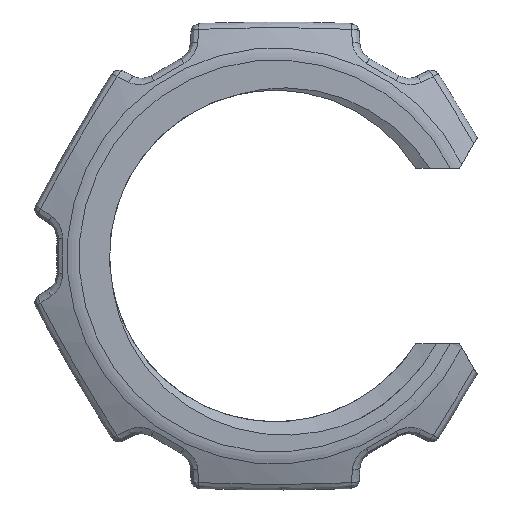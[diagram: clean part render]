
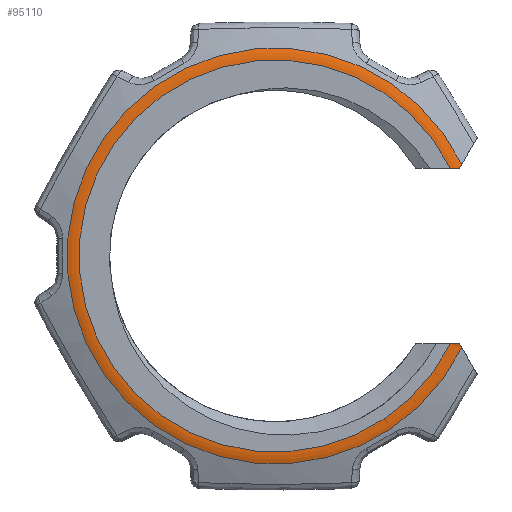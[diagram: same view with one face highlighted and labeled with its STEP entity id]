
A CAD part, left-side view. The second image highlights one B-rep face of the part: STEP entity #95110.
In plain terms, the highlighted toroidal (fillet/blend) face has major radius 11.19 mm and minor radius 2 mm.
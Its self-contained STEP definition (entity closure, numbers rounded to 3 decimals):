
#22020=CARTESIAN_POINT('',(17.912,-125.377,
-63.189));
#22030=DIRECTION('',(-0.864,0.,
-0.504));
#22040=DIRECTION('',(-0.504,0.,
0.864));
#22050=AXIS2_PLACEMENT_3D('',#22020,#22030,#22040);
#22060=PLANE('',#22050);
#22260=CARTESIAN_POINT('',(21.66,-125.377,-59.));
#22270=DIRECTION('',(0.,0.,-1.));
#22280=DIRECTION('',(-1.,0.,0.));
#22290=AXIS2_PLACEMENT_3D('',#22260,#22270,#22280);
#22300=PLANE('',#22290);
#22580=CARTESIAN_POINT('',(5.66,-125.377,-49.));
#22590=DIRECTION('',(0.,0.,1.));
#22600=DIRECTION('',(1.,0.,0.));
#22610=AXIS2_PLACEMENT_3D('',#22580,#22590,#22600);
#22620=PLANE('',#22610);
#22820=CARTESIAN_POINT('',(14.034,-125.377,
-51.463));
#22830=DIRECTION('',(-0.864,0.,
0.504));
#22840=DIRECTION('',(0.504,0.,
0.864));
#22850=AXIS2_PLACEMENT_3D('',#22820,#22830,#22840);
#22860=PLANE('',#22850);
#24000=CARTESIAN_POINT('',(14.961,-130.39,-49.));
#24010=VERTEX_POINT('',#24000);
#24040=CARTESIAN_POINT('',(4.95,-128.39,-54.));
#24050=DIRECTION('',(0.,1.,0.));
#24060=DIRECTION('',(-1.,0.,0.));
#24070=AXIS2_PLACEMENT_3D('',#24040,#24050,#24060);
#24080=TOROIDAL_SURFACE('',#24070,11.19,2.);
#24090=CARTESIAN_POINT('',(15.47,-130.337,-49.));
#24100=CARTESIAN_POINT('',(15.428,-130.346,-49.));
#24110=CARTESIAN_POINT('',(15.386,-130.354,
-49.));
#24120=CARTESIAN_POINT('',(15.344,-130.36,
-49.));
#24130=CARTESIAN_POINT('',(15.302,-130.367,
-49.));
#24140=CARTESIAN_POINT('',(15.259,-130.372,-49.));
#24150=CARTESIAN_POINT('',(15.217,-130.377,-49.));
#24160=CARTESIAN_POINT('',(15.174,-130.381,-49.));
#24170=CARTESIAN_POINT('',(15.132,-130.385,-49.));
#24180=CARTESIAN_POINT('',(15.089,-130.387,-49.));
#24190=CARTESIAN_POINT('',(15.046,-130.389,-49.));
#24200=CARTESIAN_POINT('',(15.004,-130.39,-49.));
#24210=CARTESIAN_POINT('',(14.961,-130.39,-49.));
#24220=B_SPLINE_CURVE_WITH_KNOTS('',3,(#24090,#24100,#24110,#24120,
#24130,#24140,#24150,#24160,#24170,#24180,#24190,#24200,#24210),
.UNSPECIFIED.,.F.,.F.,(4,3,3,3,4),(0.,0.128,
0.256,0.384,0.512),.UNSPECIFIED.);
#24230=SURFACE_CURVE('',#24220,(#24080,#22620),.CURVE_3D.);
#24240=CARTESIAN_POINT('',(15.47,-130.337,
-49.));
#24250=VERTEX_POINT('',#24240);
#24260=EDGE_CURVE('',#24250,#24010,#24230,.T.);
#25860=CARTESIAN_POINT('',(15.607,-130.269,
-48.764));
#25870=CARTESIAN_POINT('',(15.596,-130.276,
-48.783));
#25880=CARTESIAN_POINT('',(15.585,-130.283,
-48.803));
#25890=CARTESIAN_POINT('',(15.573,-130.289,
-48.822));
#25900=CARTESIAN_POINT('',(15.562,-130.295,
-48.842));
#25910=CARTESIAN_POINT('',(15.55,-130.301,
-48.861));
#25920=CARTESIAN_POINT('',(15.539,-130.307,
-48.881));
#25930=CARTESIAN_POINT('',(15.527,-130.312,
-48.901));
#25940=CARTESIAN_POINT('',(15.516,-130.318,
-48.921));
#25950=CARTESIAN_POINT('',(15.504,-130.323,
-48.94));
#25960=CARTESIAN_POINT('',(15.493,-130.328,
-48.96));
#25970=CARTESIAN_POINT('',(15.481,-130.333,
-48.98));
#25980=CARTESIAN_POINT('',(15.47,-130.337,
-49.));
#25990=B_SPLINE_CURVE_WITH_KNOTS('',3,(#25860,#25870,#25880,#25890,
#25900,#25910,#25920,#25930,#25940,#25950,#25960,#25970,#25980),
.UNSPECIFIED.,.F.,.F.,(4,3,3,3,4),(0.,0.07,
0.141,0.211,0.282),.UNSPECIFIED.);
#26000=SURFACE_CURVE('',#25990,(#24080,#22860),.CURVE_3D.);
#26010=CARTESIAN_POINT('',(15.607,-130.269,
-48.764));
#26020=VERTEX_POINT('',#26010);
#26030=EDGE_CURVE('',#26020,#24250,#26000,.T.);
#26340=CARTESIAN_POINT('',(15.47,-130.337,
-59.));
#26350=VERTEX_POINT('',#26340);
#27410=CARTESIAN_POINT('',(15.607,-130.269,
-59.236));
#27420=VERTEX_POINT('',#27410);
#27450=CARTESIAN_POINT('',(15.47,-130.337,
-59.));
#27460=CARTESIAN_POINT('',(15.481,-130.333,
-59.02));
#27470=CARTESIAN_POINT('',(15.493,-130.328,
-59.04));
#27480=CARTESIAN_POINT('',(15.504,-130.323,
-59.06));
#27490=CARTESIAN_POINT('',(15.516,-130.318,
-59.079));
#27500=CARTESIAN_POINT('',(15.527,-130.312,
-59.099));
#27510=CARTESIAN_POINT('',(15.539,-130.307,
-59.119));
#27520=CARTESIAN_POINT('',(15.55,-130.301,
-59.139));
#27530=CARTESIAN_POINT('',(15.562,-130.295,
-59.158));
#27540=CARTESIAN_POINT('',(15.573,-130.289,
-59.178));
#27550=CARTESIAN_POINT('',(15.585,-130.283,
-59.197));
#27560=CARTESIAN_POINT('',(15.596,-130.276,
-59.217));
#27570=CARTESIAN_POINT('',(15.607,-130.269,
-59.236));
#27580=B_SPLINE_CURVE_WITH_KNOTS('',3,(#27450,#27460,#27470,#27480,
#27490,#27500,#27510,#27520,#27530,#27540,#27550,#27560,#27570),
.UNSPECIFIED.,.F.,.F.,(4,3,3,3,4),(0.,0.07,
0.141,0.211,0.282),.UNSPECIFIED.);
#27590=SURFACE_CURVE('',#27580,(#24080,#22060),.CURVE_3D.);
#27600=EDGE_CURVE('',#26350,#27420,#27590,.T.);
#28710=CARTESIAN_POINT('',(14.961,-130.39,-59.));
#28720=VERTEX_POINT('',#28710);
#28750=CARTESIAN_POINT('',(4.95,-130.39,-54.));
#28760=DIRECTION('',(0.,1.,0.));
#28770=DIRECTION('',(-1.,0.,0.));
#28780=AXIS2_PLACEMENT_3D('',#28750,#28760,#28770);
#28790=CIRCLE('',#28780,11.19);
#28800=EDGE_CURVE('',#28720,#24010,#28790,.T.);
#40390=CARTESIAN_POINT('',(4.95,-130.269,-54.));
#40400=DIRECTION('',(0.,1.,0.));
#40410=DIRECTION('',(-1.,0.,0.));
#40420=AXIS2_PLACEMENT_3D('',#40390,#40400,#40410);
#40430=CIRCLE('',#40420,11.874);
#40440=EDGE_CURVE('',#27420,#26020,#40430,.T.);
#94870=ORIENTED_EDGE('',*,*,#24260,.F.);
#94880=ORIENTED_EDGE('',*,*,#28800,.T.);
#94890=CARTESIAN_POINT('',(14.961,-130.39,-59.));
#94900=CARTESIAN_POINT('',(15.004,-130.39,-59.));
#94910=CARTESIAN_POINT('',(15.046,-130.389,-59.));
#94920=CARTESIAN_POINT('',(15.089,-130.387,-59.));
#94930=CARTESIAN_POINT('',(15.132,-130.385,-59.));
#94940=CARTESIAN_POINT('',(15.174,-130.381,-59.));
#94950=CARTESIAN_POINT('',(15.217,-130.377,-59.));
#94960=CARTESIAN_POINT('',(15.259,-130.372,-59.));
#94970=CARTESIAN_POINT('',(15.302,-130.367,
-59.));
#94980=CARTESIAN_POINT('',(15.344,-130.36,
-59.));
#94990=CARTESIAN_POINT('',(15.386,-130.354,
-59.));
#95000=CARTESIAN_POINT('',(15.428,-130.346,-59.));
#95010=CARTESIAN_POINT('',(15.47,-130.337,-59.));
#95020=B_SPLINE_CURVE_WITH_KNOTS('',3,(#94890,#94900,#94910,#94920,
#94930,#94940,#94950,#94960,#94970,#94980,#94990,#95000,#95010),
.UNSPECIFIED.,.F.,.F.,(4,3,3,3,4),(0.,0.128,
0.256,0.384,0.512),.UNSPECIFIED.);
#95030=SURFACE_CURVE('',#95020,(#24080,#22300),.CURVE_3D.);
#95040=EDGE_CURVE('',#28720,#26350,#95030,.T.);
#95050=ORIENTED_EDGE('',*,*,#95040,.F.);
#95060=ORIENTED_EDGE('',*,*,#27600,.F.);
#95070=ORIENTED_EDGE('',*,*,#40440,.F.);
#95080=ORIENTED_EDGE('',*,*,#26030,.F.);
#95090=EDGE_LOOP('',(#95080,#95070,#95060,#95050,#94880,#94870));
#95100=FACE_OUTER_BOUND('',#95090,.T.);
#95110=ADVANCED_FACE('',(#95100),#24080,.T.);
